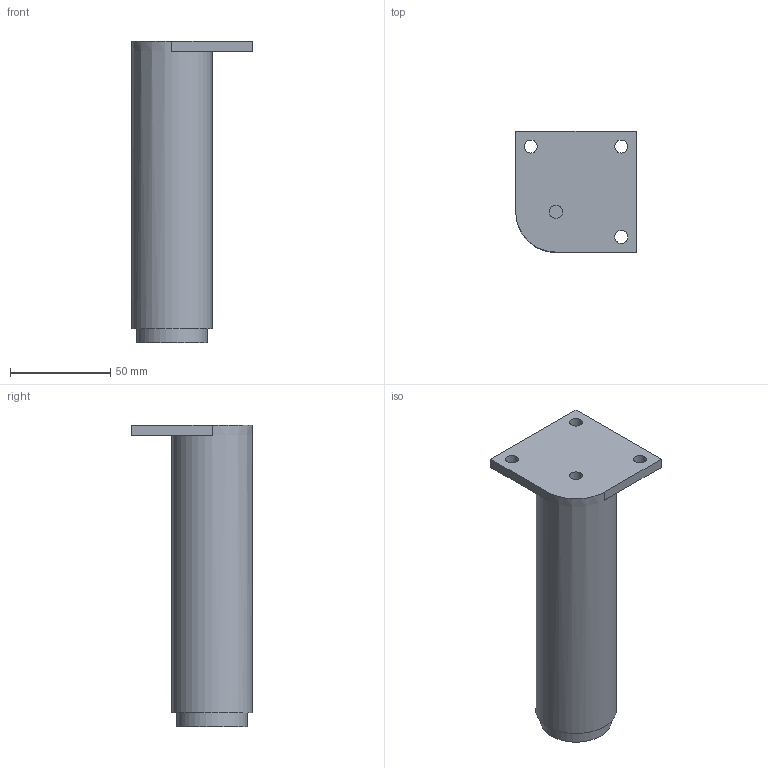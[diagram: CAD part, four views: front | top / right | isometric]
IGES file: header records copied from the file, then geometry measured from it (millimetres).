
Start section: Data from Parasolid IGES Translator 20.0.26, Copyright(c) 2006 Siemens P LM Software. All Rights Reserved.
Global section: file name: 9119554.igs; native system: By Siemens PLM Incorporated; preprocessor: XPlus GENERIC/IGES 20.0.26; author: Noname; organization: Noname; date: 20210125.170639; units: millimetre
Bounding box: 60 x 60 x 150 mm (x, y, z)
Surface area: 26506 mm2 (no closed solid volume)
Topology: 0 solids, 0 shells, 15 faces, 66 edges, 57 vertices
Faces by surface type: extrusion 9, revolution 6
